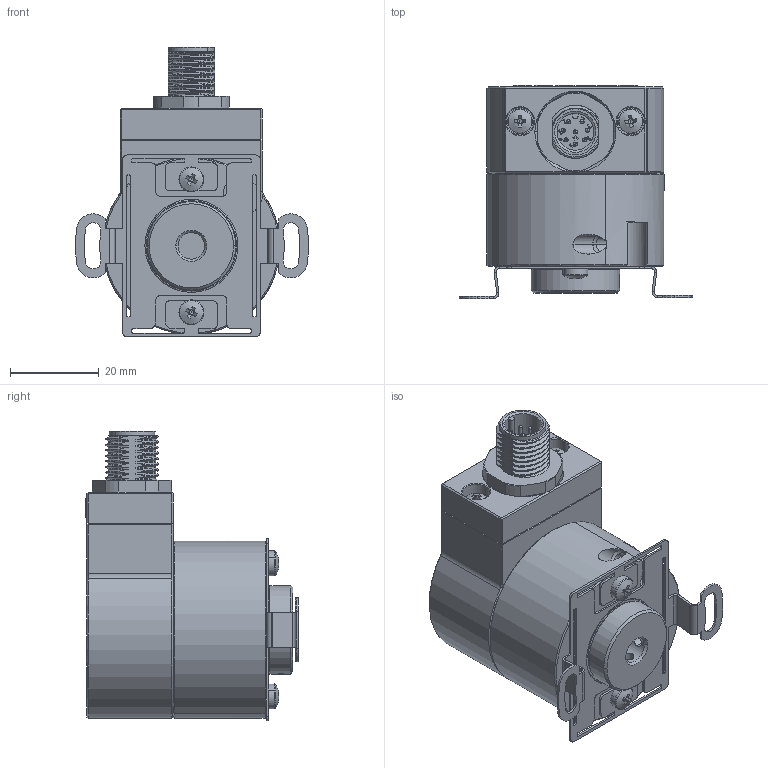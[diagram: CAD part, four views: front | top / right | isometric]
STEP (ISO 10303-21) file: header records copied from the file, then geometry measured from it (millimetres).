
FILE_DESCRIPTION (( 'STEP AP214' ), '1' );
FILE_NAME ('25-F5xxT.STEP', '2026-02-26T08:13:30', ( '' ), ( '' ), 'SwSTEP 2.0', 'SolidWorks 2019', '' );
FILE_SCHEMA (( 'AUTOMOTIVE_DESIGN' ));
Length unit declared in the file: millimetre
Products named in the file (1): 25-F5xxT
Bounding box: 52.6 x 48.05 x 65.3 mm (x, y, z)
Volume: 34858.3 mm3; surface area: 23099.2 mm2
Topology: 1 solids, 14 shells, 1057 faces, 2718 edges, 1693 vertices
Faces by surface type: plane 403, cylinder 302, cone 163, bspline 137, torus 36, sphere 16
Entity records: 64738 total; most frequent: CARTESIAN_POINT 28826, ORIENTED_EDGE 5296, DIRECTION 4789, EDGE_CURVE 2648, AXIS2_PLACEMENT_3D 1812, VERTEX_POINT 1677, EDGE_LOOP 1169, LINE 1165
